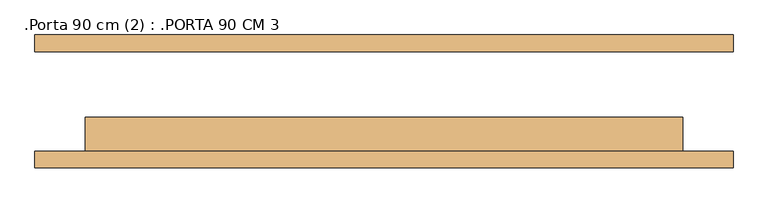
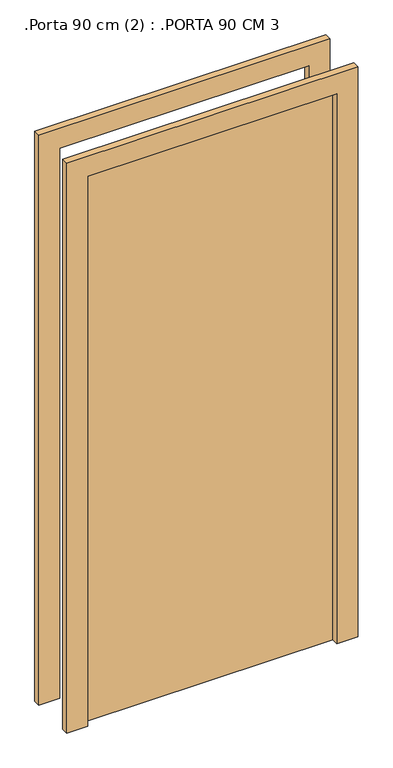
"""IFC4 building model written with IfcOpenShell, lengths in millimetres: door geometry, .Porta 90 cm (2) : .PORTA 90 CM 3."""

import ifcopenshell
import ifcopenshell.guid

model = None  # the IFC model being written
_history = None  # IfcOwnerHistory: only IFC2X3 demands one
_inside = {}  # id of a spatial element -> (the spatial element, [elements in it])
_under = {}  # id of a project, library or spatial element -> (it, [spatial elements below it])
_declared = {}  # id of a project -> (the project, [libraries it declares])
_typed = {}  # id of a type object -> (the type object, [elements of that type])
_made_of = {}  # id of a material, layer set ... -> (it, [elements and type objects made of it])


def new_model(schema):
    """Start an empty IFC model of exactly this schema.

    Asked for "IFC4X3", IfcOpenShell would pick the latest addendum, in which some entities
    have other attributes; the version numbers below select the first issue.
    IFC2X3 requires an IfcOwnerHistory on every rooted entity: one is made here for all.
    """
    global model, _history
    if schema == "IFC4X3":
        model = ifcopenshell.file(schema_version=(4, 3, 0, 0))
    else:
        model = ifcopenshell.file(schema=schema)
    _inside.clear()
    _under.clear()
    _declared.clear()
    _typed.clear()
    _made_of.clear()
    _history = None
    if model.schema == "IFC2X3":
        org = make("IfcOrganization", Name="unknown")
        user = make(
            "IfcPersonAndOrganization",
            ThePerson=make("IfcPerson", FamilyName="unknown"),
            TheOrganization=org,
        )
        app = make(
            "IfcApplication",
            ApplicationDeveloper=org,
            Version="unknown",
            ApplicationFullName="unknown",
            ApplicationIdentifier="unknown",
        )
        _history = make(
            "IfcOwnerHistory",
            OwningUser=user,
            OwningApplication=app,
            ChangeAction="ADDED",
            CreationDate=0,
        )
    return model


def make(cls, **values):
    """One entity of the class cls with the attributes given. An attribute that is None is left unset."""
    return model.create_entity(
        cls, **{name: value for name, value in values.items() if value is not None}
    )


def rooted(cls, **values):
    """An entity with a GlobalId (a new one), such as an element, a storey or a relation."""
    return make(cls, GlobalId=ifcopenshell.guid.new(), OwnerHistory=_history, **values)


def si_unit(unit_type, name, prefix=None):
    """IfcSIUnit, for example si_unit("LENGTHUNIT", "METRE", prefix="MILLI")."""
    return make("IfcSIUnit", UnitType=unit_type, Prefix=prefix, Name=name)


def assignment(units):
    """IfcUnitAssignment: the units of a project."""
    return None if units is None else make("IfcUnitAssignment", Units=units)


def point(xyz):
    """IfcCartesianPoint."""
    return None if xyz is None else make("IfcCartesianPoint", Coordinates=xyz)


def direction(xyz):
    """IfcDirection."""
    return None if xyz is None else make("IfcDirection", DirectionRatios=xyz)


def frame(location, z_axis=None, x_axis=None):
    """IfcAxis2Placement3D, a coordinate frame: its origin and axes. An axis left out is left unset."""
    return make(
        "IfcAxis2Placement3D",
        Location=point(location),
        Axis=direction(z_axis),
        RefDirection=direction(x_axis),
    )


def origin():
    """The frame at (0, 0, 0) with its axes left unset."""
    return frame((0.0, 0.0, 0.0))


def origin_with_axes():
    """The frame at (0, 0, 0) with the z axis (0, 0, 1) and the x axis (1, 0, 0) written out."""
    return frame((0.0, 0.0, 0.0), z_axis=(0.0, 0.0, 1.0), x_axis=(1.0, 0.0, 0.0))


def place(relative_to, where):
    """IfcLocalPlacement: puts the frame where relative to a parent placement (None: the world)."""
    return make(
        "IfcLocalPlacement", PlacementRelTo=relative_to, RelativePlacement=where
    )


def context(
    kind, dimensions, precision=None, world=None, true_north=None, identifier=None
):
    """IfcGeometricRepresentationContext, for example the 3D "Model" context."""
    return make(
        "IfcGeometricRepresentationContext",
        ContextIdentifier=identifier,
        ContextType=kind,
        CoordinateSpaceDimension=dimensions,
        Precision=precision,
        WorldCoordinateSystem=world,
        TrueNorth=true_north,
    )


def project(units=None, contexts=None):
    """IfcProject with its units and contexts."""
    return rooted(
        "IfcProject",
        Name="project",
        RepresentationContexts=contexts,
        UnitsInContext=assignment(units),
    )


def spatial(cls, under=None, at=None, **own):
    """A site, building, storey or space (cls), placed at a placement, below another one or the project."""
    s = rooted(cls, ObjectPlacement=at, **own)
    if under is not None:
        _under.setdefault(under.id(), (under, []))[1].append(s)
    return s


def polyline(points):
    """IfcPolyline through the points."""
    return make("IfcPolyline", Points=[point(p) for p in points])


def outline(outer, holes=None, kind="AREA"):
    """IfcArbitraryClosedProfileDef: a profile drawn as a closed curve; with holes, ...WithVoids."""
    if holes is None:
        return make("IfcArbitraryClosedProfileDef", ProfileType=kind, OuterCurve=outer)
    return make(
        "IfcArbitraryProfileDefWithVoids",
        ProfileType=kind,
        OuterCurve=outer,
        InnerCurves=holes,
    )


def extrude(swept, where, along, depth):
    """IfcExtrudedAreaSolid: the profile swept, set in the frame where, extruded along a direction by depth."""
    return make(
        "IfcExtrudedAreaSolid",
        SweptArea=swept,
        Position=where,
        ExtrudedDirection=direction(along),
        Depth=depth,
    )


def shape(context_of_items, identifier, shape_type, items):
    """IfcShapeRepresentation: the items that make up one representation, for example the "Body"."""
    return make(
        "IfcShapeRepresentation",
        ContextOfItems=context_of_items,
        RepresentationIdentifier=identifier,
        RepresentationType=shape_type,
        Items=items,
    )


def source(mapping_origin, context_of_items, identifier, shape_type, items):
    """IfcRepresentationMap: a shape defined once, which mapped items show again and again."""
    return make(
        "IfcRepresentationMap",
        MappingOrigin=mapping_origin,
        MappedRepresentation=shape(context_of_items, identifier, shape_type, items),
    )


def transform(
    local_origin,
    x_axis=None,
    y_axis=None,
    z_axis=None,
    scale=None,
    scale2=None,
    scale3=None,
    uniform=True,
):
    """IfcCartesianTransformationOperator3D, or its non-uniform kind. x_axis, y_axis, z_axis: its Axis1, 2, 3."""
    if uniform:
        return make(
            "IfcCartesianTransformationOperator3D",
            Axis1=direction(x_axis),
            Axis2=direction(y_axis),
            LocalOrigin=point(local_origin),
            Scale=scale,
            Axis3=direction(z_axis),
        )
    return make(
        "IfcCartesianTransformationOperator3DnonUniform",
        Axis1=direction(x_axis),
        Axis2=direction(y_axis),
        LocalOrigin=point(local_origin),
        Scale=scale,
        Axis3=direction(z_axis),
        Scale2=scale2,
        Scale3=scale3,
    )


def mapped(mapping_source, mapping_target):
    """IfcMappedItem: shows the shape of a source again, moved by a transform."""
    return make(
        "IfcMappedItem", MappingSource=mapping_source, MappingTarget=mapping_target
    )


def made_of(thing, what):
    """Note that an element or type object is made of a material, layer set ...; save() writes the relation."""
    if what is not None:
        _made_of.setdefault(what.id(), (what, []))[1].append(thing)
    return thing


def element(
    cls,
    number,
    at=None,
    inside=None,
    cuts=None,
    type_object=None,
    material=None,
    context=None,
    identifier="Body",
    shape_type=None,
    held_by="IfcProductDefinitionShape",
    body=None,
    shapes=None,
    **own,
):
    """One element of the class cls, such as IfcWall. Its Tag is "e" and its number.

    at: its placement. inside: the storey or other place that contains it. cuts: it is an
    opening in that element (IfcRelVoidsElement). A single representation is given by context,
    identifier, shape_type and body (its items); several are given by shapes. held_by: the class
    of the entity that holds the representations. save() writes the other relations.
    """
    e = rooted(cls, Tag="e%d" % number, ObjectPlacement=at, **own)
    if body is not None:
        shapes = [shape(context, identifier, shape_type, body)]
    if shapes is not None:
        e.Representation = make(held_by, Representations=shapes)
    if inside is not None:
        _inside.setdefault(inside.id(), (inside, []))[1].append(e)
    if cuts is not None:
        rooted(
            "IfcRelVoidsElement", RelatingBuildingElement=cuts, RelatedOpeningElement=e
        )
    if type_object is not None:
        _typed.setdefault(type_object.id(), (type_object, []))[1].append(e)
    return made_of(e, material)


def aggregate(whole, parts):
    """IfcRelAggregates: a whole, such as a stair, and the parts it consists of."""
    return rooted("IfcRelAggregates", RelatingObject=whole, RelatedObjects=parts)


def save(model, path):
    """Write the relations noted so far, then the file.

    IfcRelAggregates (storeys below a building ...), IfcRelContainedInSpatialStructure (elements
    in a storey), IfcRelDefinesByType, IfcRelAssociatesMaterial and IfcRelDeclares: one each for
    every whole, place, type object, material and project.
    """
    for whole, parts in _under.values():
        aggregate(whole, parts)
    for where, things in _inside.values():
        rooted(
            "IfcRelContainedInSpatialStructure",
            RelatedElements=things,
            RelatingStructure=where,
        )
    for kind, things in _typed.values():
        rooted("IfcRelDefinesByType", RelatedObjects=things, RelatingType=kind)
    for what, things in _made_of.values():
        rooted("IfcRelAssociatesMaterial", RelatedObjects=things, RelatingMaterial=what)
    for by, libraries in _declared.values():
        rooted("IfcRelDeclares", RelatingContext=by, RelatedDefinitions=libraries)
    model.write(path)


def porta_90_cm_2_porta_90_cm_3_0a57bfd5(model_context):
    return source(origin(), model_context, "Body", "SweptSolid", [
        extrude(outline(polyline([(2176.0, -526.0), (0.0, -526.0), (0.0, -450.0), (2100.0, -450.0), (2100.0, 450.0), (0.0, 450.0), (0.0, 526.0), (2176.0, 526.0), (2176.0, -526.0)])), frame((0.0, -100.0, 0.0), z_axis=(0.0, 1.0, 0.0), x_axis=(0.0, 0.0, 1.0)), (0.0, 0.0, 1.0), 25.0),
        extrude(outline(polyline([(2176.0, 526.0), (2176.0, -526.0), (0.0, -526.0), (0.0, -450.0), (2100.0, -450.0), (2100.0, 450.0), (0.0, 450.0), (0.0, 526.0), (2176.0, 526.0)])), frame((0.0, 75.0, 0.0), z_axis=(0.0, 1.0, 0.0), x_axis=(0.0, 0.0, 1.0)), (0.0, 0.0, 1.0), 25.0),
        extrude(outline(polyline([(450.0, -24.0), (450.0, -75.0), (-450.0, -75.0), (-450.0, -24.0), (450.0, -24.0)])), origin_with_axes(), (0.0, 0.0, 1.0), 2100.0),
    ])


if __name__ == "__main__":
    model = new_model("IFC4")
    model_context = context("Model", 3, world=origin())
    ifc_project = project(units=[si_unit("LENGTHUNIT", "METRE", prefix="MILLI")], contexts=[model_context])
    site = spatial("IfcSite", under=ifc_project)
    building = spatial("IfcBuilding", under=site)
    placement = place(None, origin())
    porta_90_cm_2_porta_90_cm_3_shape = porta_90_cm_2_porta_90_cm_3_0a57bfd5(model_context)
    element("IfcDoor", 1, ObjectType=".Porta 90 cm (2) : .PORTA 90 CM 3", at=placement, inside=building, context=model_context, shape_type="MappedRepresentation", body=[
        mapped(porta_90_cm_2_porta_90_cm_3_shape, transform((0.0, 0.0, 0.0), x_axis=(1.0, 0.0, 0.0), y_axis=(0.0, 1.0, 0.0), z_axis=(0.0, 0.0, 1.0))),
    ])
    save(model, "model.ifc")
